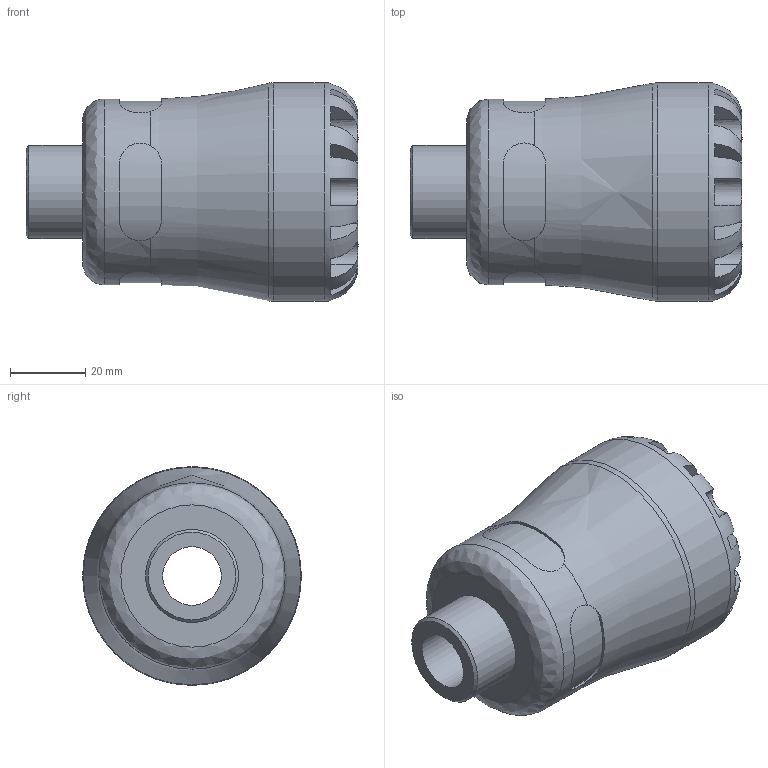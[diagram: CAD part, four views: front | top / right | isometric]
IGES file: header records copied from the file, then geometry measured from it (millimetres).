
Global section: file name: 107200032007_197200032007.ipt; native system: Autodesk Inventor 2015; preprocessor: unknown; author: KIM; date: 20170122.104927; units: millimetre
Bounding box: 88 x 58 x 58 mm (x, y, z)
Volume: 112448.2 mm3; surface area: 25249.2 mm2
Topology: 1 solids, 1 shells, 99 faces, 264 edges, 169 vertices
Faces by surface type: plane 60, revolution 23, cylinder 15, cone 1
Full cylindrical faces by diameter (mm): 24.658 x1, 49.3 x1, 58 x1
